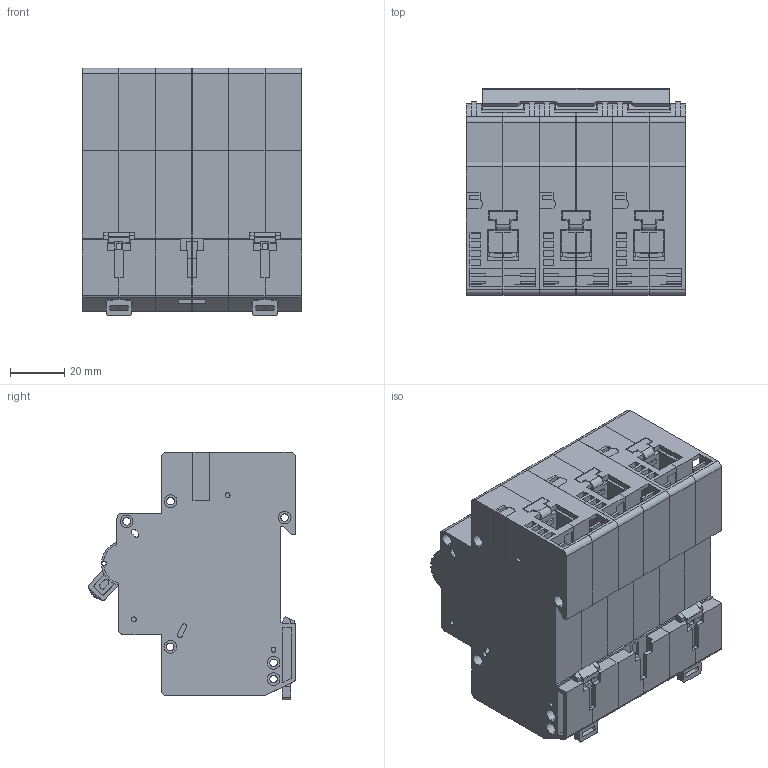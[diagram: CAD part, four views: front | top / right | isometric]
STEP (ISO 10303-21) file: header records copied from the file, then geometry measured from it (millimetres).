
FILE_DESCRIPTION (( 'STEP AP214' ), '1' );
FILE_NAME ('OptiDin BM125 3 瀁錌黟.STEP', '2022-12-01T08:26:15', ( '' ), ( '' ), 'SwSTEP 2.0', 'SolidWorks 2018', '' );
FILE_SCHEMA (( 'AUTOMOTIVE_DESIGN' ));
Length unit declared in the file: millimetre
Products named in the file (13): Âûâîä íèæíèé ÃÆÈÊ.745315.018 îáðåçàíûé; Áîêîâèíà ëåâàÿ ÃÆÈÊ.735224.141(ïóñòàÿ); Áîêîâèíà ïðàâàÿ ÃÆÈÊ.735224.142 ïóñòàÿ; Ðó÷êà ÃÆÈÊ.753725.017; 妈眚 闷仁.758151.075; OptiDin BM125 3 瀁錌黟; Çàù¸ëêà ÃÆÈÊ.741358.040; Ñêîáà ÃÆÈÊ.746442.007_3-å; OptiDin BM125 1 ïîëþñ_¡ §; Âûâîä âåðõíèé ÃÆÈÊ.745315.019; OptiDin BM125 1 ïîëþñ_1•; Êîëîäêà ÃÆÈÊ.745418.023; Âñòàâêà ÃÆÈÊ.741324.037
Assembly tree (25 placements, depth 3):
  OptiDin BM125 3 瀁錌黟
    OptiDin BM125 1 ïîëþñ_1•  x2
      Áîêîâèíà ëåâàÿ ÃÆÈÊ.735224.141(ïóñòàÿ)
      Áîêîâèíà ïðàâàÿ ÃÆÈÊ.735224.142 ïóñòàÿ
      Âñòàâêà ÃÆÈÊ.741324.037
      Âûâîä íèæíèé ÃÆÈÊ.745315.018 îáðåçàíûé
      Âûâîä âåðõíèé ÃÆÈÊ.745315.019
      妈眚 闷仁.758151.075
      Êîëîäêà ÃÆÈÊ.745418.023
      Ðó÷êà ÃÆÈÊ.753725.017
      Çàù¸ëêà ÃÆÈÊ.741358.040
    OptiDin BM125 1 ïîëþñ_¡ §
      Áîêîâèíà ëåâàÿ ÃÆÈÊ.735224.141(ïóñòàÿ)
      Áîêîâèíà ïðàâàÿ ÃÆÈÊ.735224.142 ïóñòàÿ
      Âñòàâêà ÃÆÈÊ.741324.037
      Âûâîä íèæíèé ÃÆÈÊ.745315.018 îáðåçàíûé
      Âûâîä âåðõíèé ÃÆÈÊ.745315.019
      妈眚 闷仁.758151.075  x2
      Êîëîäêà ÃÆÈÊ.745418.023  x2
      Ðó÷êà ÃÆÈÊ.753725.017
    Ñêîáà ÃÆÈÊ.746442.007_3-å
Bounding box: 81 x 76.52 x 91.57 mm (x, y, z)
Volume: 137779.9 mm3; surface area: 161583.9 mm2
Topology: 33 solids, 33 shells, 3174 faces, 8552 edges, 5512 vertices
Faces by surface type: plane 2350, cylinder 779, torus 24, cone 21
Entity records: 33643 total; most frequent: CARTESIAN_POINT 6074, ORIENTED_EDGE 5728, DIRECTION 5535, EDGE_CURVE 2864, VECTOR 2197, LINE 2197, VERTEX_POINT 1858, AXIS2_PLACEMENT_3D 1669
